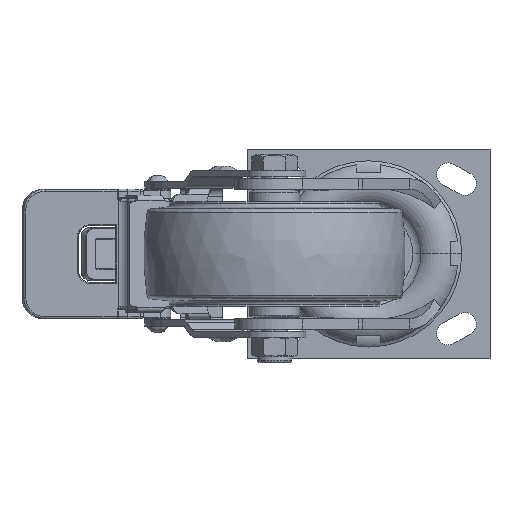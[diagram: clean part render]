
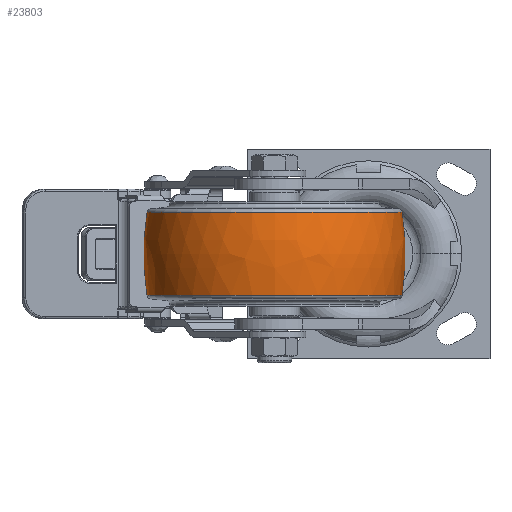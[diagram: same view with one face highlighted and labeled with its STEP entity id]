
A CAD part, front view. The second image highlights one B-rep face of the part: STEP entity #23803.
In plain terms, the highlighted free-form (B-spline) face has degree [3, 3] with [7, 4] control points.
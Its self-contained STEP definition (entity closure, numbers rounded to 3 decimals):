
#23375=CARTESIAN_POINT('',(0.,-64.241,0.));
#23376=DIRECTION('',(0.,0.,1.));
#23377=DIRECTION('',(0.156,0.988,0.));
#23378=AXIS2_PLACEMENT_3D('',#23375,#23376,#23377);
#23380=CARTESIAN_POINT('',(0.,64.241,0.));
#23381=DIRECTION('',(0.,0.,-1.));
#23382=DIRECTION('',(0.156,-0.988,0.));
#23383=AXIS2_PLACEMENT_3D('',#23380,#23381,#23382);
#23385=CARTESIAN_POINT('',(19.804,0.,0.));
#23386=DIRECTION('',(-1.,0.,0.));
#23387=DIRECTION('',(0.,1.,0.));
#23388=AXIS2_PLACEMENT_3D('',#23385,#23386,#23387);
#23400=CARTESIAN_POINT('',(-19.804,0.,0.));
#23401=DIRECTION('',(-1.,0.,0.));
#23402=DIRECTION('',(0.,1.,0.));
#23403=AXIS2_PLACEMENT_3D('',#23400,#23401,#23402);
#23610=CARTESIAN_POINT('',(19.804,60.943,0.));
#23611=VERTEX_POINT('',#23610);
#23612=CARTESIAN_POINT('',(-19.804,60.943,0.));
#23613=VERTEX_POINT('',#23612);
#23642=CARTESIAN_POINT('',(19.804,-60.943,
0.));
#23643=VERTEX_POINT('',#23642);
#23644=CARTESIAN_POINT('',(-19.804,-60.943,
0.));
#23645=VERTEX_POINT('',#23644);
#23767=CARTESIAN_POINT('',(-20.589,-60.696,
3.819));
#23768=CARTESIAN_POINT('',(-6.924,-62.942,
3.96));
#23769=CARTESIAN_POINT('',(6.924,-62.942,
3.96));
#23770=CARTESIAN_POINT('',(20.589,-60.696,
3.819));
#23771=CARTESIAN_POINT('',(-20.589,-63.046,
-33.534));
#23772=CARTESIAN_POINT('',(-6.924,-65.379,
-34.774));
#23773=CARTESIAN_POINT('',(6.924,-65.379,
-34.774));
#23774=CARTESIAN_POINT('',(20.589,-63.046,
-33.534));
#23775=CARTESIAN_POINT('',(-20.589,-37.426,
-60.816));
#23776=CARTESIAN_POINT('',(-6.924,-38.811,
-63.066));
#23777=CARTESIAN_POINT('',(6.924,-38.811,
-63.066));
#23778=CARTESIAN_POINT('',(20.589,-37.426,
-60.816));
#23779=CARTESIAN_POINT('',(-20.589,0.,
-60.816));
#23780=CARTESIAN_POINT('',(-6.924,0.,
-63.066));
#23781=CARTESIAN_POINT('',(6.924,0.,
-63.066));
#23782=CARTESIAN_POINT('',(20.589,0.,
-60.816));
#23783=CARTESIAN_POINT('',(-20.589,37.426,
-60.816));
#23784=CARTESIAN_POINT('',(-6.924,38.811,
-63.066));
#23785=CARTESIAN_POINT('',(6.924,38.811,
-63.066));
#23786=CARTESIAN_POINT('',(20.589,37.426,
-60.816));
#23787=CARTESIAN_POINT('',(-20.589,63.046,
-33.534));
#23788=CARTESIAN_POINT('',(-6.924,65.379,
-34.774));
#23789=CARTESIAN_POINT('',(6.924,65.379,
-34.774));
#23790=CARTESIAN_POINT('',(20.589,63.046,
-33.534));
#23791=CARTESIAN_POINT('',(-20.589,60.696,
3.819));
#23792=CARTESIAN_POINT('',(-6.924,62.942,
3.96));
#23793=CARTESIAN_POINT('',(6.924,62.942,3.96));
#23794=CARTESIAN_POINT('',(20.589,60.696,3.819));
#23795=(BOUNDED_SURFACE()B_SPLINE_SURFACE(3,3,((#23767,#23768,#23769,#23770),(
#23771,#23772,#23773,#23774),(#23775,#23776,#23777,#23778),(#23779,#23780,
#23781,#23782),(#23783,#23784,#23785,#23786),(#23787,#23788,#23789,#23790),(
#23791,#23792,#23793,#23794)),.UNSPECIFIED.,.F.,.F.,.F.)B_SPLINE_SURFACE_WITH_KNOTS((4,3,4),(4,4),(0.,1.,2.),(0.,1.),.UNSPECIFIED.)GEOMETRIC_REPRESENTATION_ITEM()RATIONAL_B_SPLINE_SURFACE(((1.195,1.185,
1.185,1.195),(0.944,0.935,
0.935,0.944),(0.944,0.935,
0.935,0.944),(1.195,1.185,
1.185,1.195),(0.944,0.935,
0.935,0.944),(0.944,0.935,
0.935,0.944),(1.195,1.185,
1.185,1.195)))REPRESENTATION_ITEM('')SURFACE());
#23796=ORIENTED_EDGE('',*,*,#23757,.T.);
#23798=ORIENTED_EDGE('',*,*,#23797,.T.);
#23799=ORIENTED_EDGE('',*,*,#23760,.F.);
#23800=ORIENTED_EDGE('',*,*,#23707,.F.);
#23801=EDGE_LOOP('',(#23796,#23798,#23799,#23800));
#23802=FACE_OUTER_BOUND('',#23801,.F.);
#23379=CIRCLE('',#23378,126.741);
#23384=CIRCLE('',#23383,126.741);
#23389=CIRCLE('',#23388,60.943);
#23404=CIRCLE('',#23403,60.943);
#23707=EDGE_CURVE('',#23611,#23643,#23389,.T.);
#23757=EDGE_CURVE('',#23611,#23613,#23379,.T.);
#23760=EDGE_CURVE('',#23643,#23645,#23384,.T.);
#23797=EDGE_CURVE('',#23613,#23645,#23404,.T.);
#23803=ADVANCED_FACE('',(#23802),#23795,.T.);
